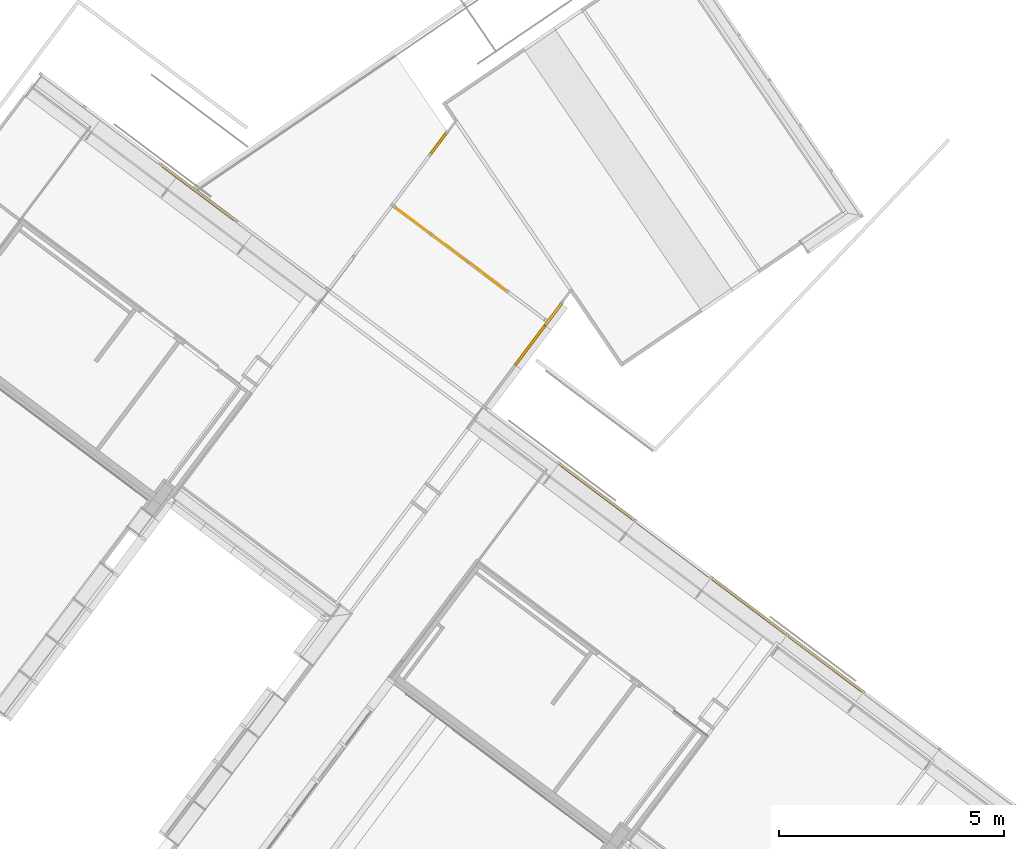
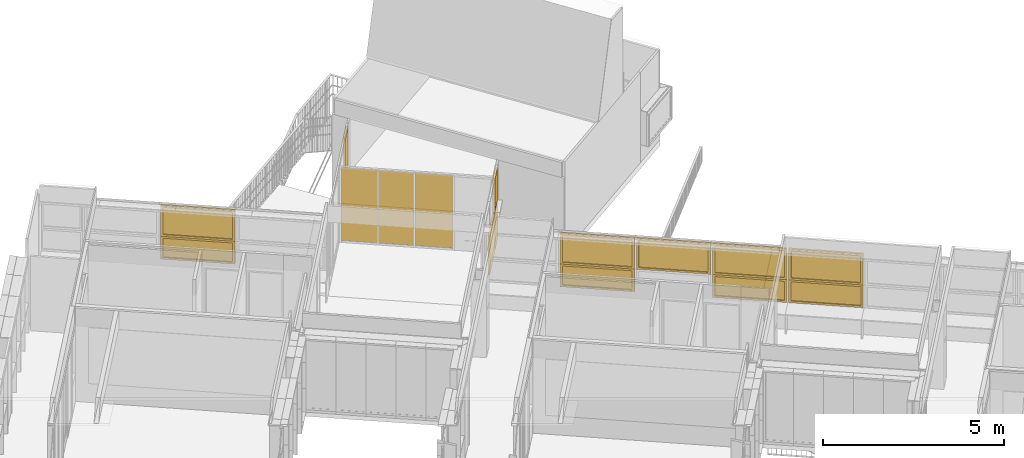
# One storey, part 206 of 243: 12 windows, 4 doors, 5 elements without a shape of their own.
"""IFC2X3 building model written with IfcOpenShell, lengths in metres."""

from ifc_helpers import new_model, entity, si_unit, converted_unit, derived_unit, direction, frame, origin, origin_2d_with_axis, place, context, subcontext, project, spatial, rectangle, extrude, faceted_brep, source, transform, mapped, material, material_list, type_object, type_shapes, element, aggregate, save


model = new_model("IFC2X3")

# Units and contexts
model_context = context("Model", 3, precision=1e-05, world=origin(), true_north=direction((6.123031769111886e-17, 1.0)))
body_context = subcontext(model_context, "Body", "Model", "MODEL_VIEW")
ifc_project = project(units=[si_unit("LENGTHUNIT", "METRE"), si_unit("AREAUNIT", "SQUARE_METRE"), si_unit("VOLUMEUNIT", "CUBIC_METRE"), converted_unit("PLANEANGLEUNIT", "DEGREE", entity("IfcRatioMeasure", 0.017453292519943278), si_unit("PLANEANGLEUNIT", "RADIAN"), dimensions=[0, 0, 0, 0, 0, 0, 0]), si_unit("MASSUNIT", "GRAM", prefix="KILO"), derived_unit("MASSDENSITYUNIT", [(si_unit("MASSUNIT", "GRAM", prefix="KILO"), 1), (si_unit("LENGTHUNIT", "METRE"), -3)]), derived_unit("IONCONCENTRATIONUNIT", [(si_unit("MASSUNIT", "GRAM", prefix="KILO"), 1), (si_unit("LENGTHUNIT", "METRE"), -3)]), derived_unit("MOMENTOFINERTIAUNIT", [(si_unit("LENGTHUNIT", "METRE"), 4)]), si_unit("TIMEUNIT", "SECOND"), si_unit("FREQUENCYUNIT", "HERTZ"), si_unit("THERMODYNAMICTEMPERATUREUNIT", "DEGREE_CELSIUS"), derived_unit("THERMALTRANSMITTANCEUNIT", [(si_unit("MASSUNIT", "GRAM", prefix="KILO"), 1), (si_unit("THERMODYNAMICTEMPERATUREUNIT", "KELVIN"), -1), (si_unit("TIMEUNIT", "SECOND"), -3)]), derived_unit("THERMALCONDUCTANCEUNIT", [(si_unit("MASSUNIT", "GRAM", prefix="KILO"), 1), (si_unit("THERMODYNAMICTEMPERATUREUNIT", "KELVIN"), -1), (si_unit("TIMEUNIT", "SECOND"), -3), (si_unit("LENGTHUNIT", "METRE"), 1)]), derived_unit("VOLUMETRICFLOWRATEUNIT", [(si_unit("LENGTHUNIT", "METRE"), 3), (si_unit("TIMEUNIT", "SECOND"), -1)]), derived_unit("MASSFLOWRATEUNIT", [(si_unit("MASSUNIT", "GRAM", prefix="KILO"), 1), (si_unit("TIMEUNIT", "SECOND"), -1)]), derived_unit("ROTATIONALFREQUENCYUNIT", [(si_unit("TIMEUNIT", "SECOND"), -1)]), si_unit("ELECTRICCURRENTUNIT", "AMPERE"), si_unit("ELECTRICVOLTAGEUNIT", "VOLT"), si_unit("POWERUNIT", "WATT"), si_unit("FORCEUNIT", "NEWTON", prefix="KILO"), si_unit("ILLUMINANCEUNIT", "LUX"), si_unit("LUMINOUSFLUXUNIT", "LUMEN"), si_unit("LUMINOUSINTENSITYUNIT", "CANDELA"), derived_unit("USERDEFINED", [(si_unit("MASSUNIT", "GRAM", prefix="KILO"), -1), (si_unit("LENGTHUNIT", "METRE"), -2), (si_unit("TIMEUNIT", "SECOND"), 3), (si_unit("LUMINOUSFLUXUNIT", "LUMEN"), 1)]), derived_unit("USERDEFINED", [(si_unit("MASSUNIT", "GRAM", prefix="KILO"), 1), (si_unit("TIMEUNIT", "SECOND"), -3), (si_unit("LENGTHUNIT", "METRE"), 3), (si_unit("ELECTRICCURRENTUNIT", "AMPERE"), -2)]), derived_unit("SOUNDPOWERUNIT", [(si_unit("MASSUNIT", "GRAM", prefix="KILO"), 1), (si_unit("TIMEUNIT", "SECOND"), -3), (si_unit("LENGTHUNIT", "METRE"), 2)]), derived_unit("SOUNDPRESSUREUNIT", [(si_unit("MASSUNIT", "GRAM", prefix="KILO"), 1), (si_unit("LENGTHUNIT", "METRE"), -1), (si_unit("TIMEUNIT", "SECOND"), -2)]), derived_unit("LINEARVELOCITYUNIT", [(si_unit("LENGTHUNIT", "METRE"), 1), (si_unit("TIMEUNIT", "SECOND"), -1)]), si_unit("PRESSUREUNIT", "PASCAL"), derived_unit("USERDEFINED", [(si_unit("MASSUNIT", "GRAM", prefix="KILO"), 1), (si_unit("LENGTHUNIT", "METRE"), -2), (si_unit("TIMEUNIT", "SECOND"), -2)]), derived_unit("LINEARFORCEUNIT", [(si_unit("MASSUNIT", "GRAM", prefix="KILO"), 1), (si_unit("TIMEUNIT", "SECOND"), -2)]), derived_unit("PLANARFORCEUNIT", [(si_unit("MASSUNIT", "GRAM", prefix="KILO"), 1), (si_unit("LENGTHUNIT", "METRE"), -1), (si_unit("TIMEUNIT", "SECOND"), -2)]), derived_unit("SPECIFICHEATCAPACITYUNIT", [(si_unit("THERMODYNAMICTEMPERATUREUNIT", "KELVIN"), -1), (si_unit("LENGTHUNIT", "METRE"), 2), (si_unit("TIMEUNIT", "SECOND"), -2)]), derived_unit("HEATINGVALUEUNIT", [(si_unit("LENGTHUNIT", "METRE"), 2), (si_unit("TIMEUNIT", "SECOND"), -2)]), derived_unit("VAPORPERMEABILITYUNIT", [(si_unit("LENGTHUNIT", "METRE"), -1), (si_unit("TIMEUNIT", "SECOND"), 1)]), derived_unit("DYNAMICVISCOSITYUNIT", [(si_unit("MASSUNIT", "GRAM", prefix="KILO"), 1), (si_unit("TIMEUNIT", "SECOND"), -1), (si_unit("LENGTHUNIT", "METRE"), -1)]), derived_unit("THERMALEXPANSIONCOEFFICIENTUNIT", [(si_unit("THERMODYNAMICTEMPERATUREUNIT", "KELVIN"), -1)]), derived_unit("MODULUSOFELASTICITYUNIT", [(si_unit("MASSUNIT", "GRAM", prefix="KILO"), 1), (si_unit("LENGTHUNIT", "METRE"), -1), (si_unit("TIMEUNIT", "SECOND"), -2)]), derived_unit("ISOTHERMALMOISTURECAPACITYUNIT", [(si_unit("LENGTHUNIT", "METRE"), 3), (si_unit("MASSUNIT", "GRAM", prefix="KILO"), -1)]), derived_unit("MOISTUREDIFFUSIVITYUNIT", [(si_unit("TIMEUNIT", "SECOND"), -1), (si_unit("LENGTHUNIT", "METRE"), 2)])], contexts=[model_context])

# Site, building, storey
site_placement = place(None, frame((0.0, 0.0, 235.0), z_axis=(0.0, 0.0, 1.0), x_axis=(-0.7996477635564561, 0.6004693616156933, 0.0)))
site = spatial("IfcSite", under=ifc_project, at=site_placement, Name="Default", CompositionType="ELEMENT")
building_placement = place(site_placement, origin())
building = spatial("IfcBuilding", under=site, at=building_placement, CompositionType="ELEMENT")
storey_placement = place(building_placement, origin())
storey = spatial("IfcBuildingStorey", under=building, at=storey_placement, Name="P0- Escola", CompositionType="ELEMENT", Elevation=0.0)

# Curtain wall, windows
curtain_wall_type_1 = type_object("IfcCurtainWallType", Name="Muro cortina:MC- EXT- MC6", PredefinedType="NOTDEFINED")
curtain_wall_1_placement = place(storey_placement, origin())
curtain_wall_1 = element("IfcCurtainWall", 1, at=curtain_wall_1_placement, inside=storey, type_object=curtain_wall_type_1, Name="Muro cortina:MC- EXT- MC6", ObjectType="Muro cortina:MC- EXT- MC6")
ifc_material_1 = material(Name="_Vidre")
ifc_material_2 = material(Name="_Alumini- T1- Perfil")
ifc_material_list_1 = material_list([ifc_material_1, ifc_material_2])
window_style_1 = type_object("IfcWindowStyle", Name="MC- Alu- Conjunt vidre fix- 62x60 cm:MC- Alu- Conjunt vidre fix- 62x60 cm", ConstructionType="NOTDEFINED", OperationType="NOTDEFINED", ParameterTakesPrecedence=False, Sizeable=False, material=ifc_material_list_1)
shared_shape_1 = source(origin(), body_context, "Body", "Brep", [
    faceted_brep([(0.984693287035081, -0.007600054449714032, 0.048806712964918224), (0.9846932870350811, -0.03160022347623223, 0.048806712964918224), (-0.9846932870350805, -0.03160022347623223, 0.048806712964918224), (-0.9846932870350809, -0.007600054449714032, 0.048806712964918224), (0.984693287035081, -0.007600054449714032, 0.7210000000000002), (-0.9846932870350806, -0.007600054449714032, 0.7210000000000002), (-0.9846932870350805, -0.03160022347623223, 0.7210000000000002), (0.9846932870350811, -0.03160022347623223, 0.7210000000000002)], [[[0, 1, 2, 3]], [[4, 0, 3, 5]], [[5, 3, 2, 6]], [[6, 2, 1, 7]], [[7, 1, 0, 4]], [[4, 5, 6, 7]]]),
    faceted_brep([(1.033499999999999, -0.05999999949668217, 0.7700000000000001), (1.033499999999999, -0.05999999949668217, 0.0), (1.033499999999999, 0.0, 0.0), (1.033499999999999, 0.0, 0.7699999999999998), (-1.033499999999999, 0.0, 0.7700000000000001), (-1.033499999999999, 0.0, 0.0), (0.9706931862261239, 0.0, 0.7071931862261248), (-0.9706931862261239, 0.0, 0.707193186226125), (-0.9706931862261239, 0.0, 0.0628068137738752), (0.9706931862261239, 0.0, 0.06280681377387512), (-1.033499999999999, -0.05999999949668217, 0.0), (-1.033499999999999, -0.05999999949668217, 0.7700000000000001), (-0.9706960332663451, -0.05999999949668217, 0.7071960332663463), (0.9706960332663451, -0.05999999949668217, 0.7071960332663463), (0.9706960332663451, -0.05999999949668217, 0.06280396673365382), (-0.9706960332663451, -0.05999999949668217, 0.06280396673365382), (0.9706960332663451, -0.03160022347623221, 0.7071960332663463), (0.9706960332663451, -0.03160022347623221, 0.06280396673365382), (-0.9706960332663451, -0.03160022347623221, 0.06280396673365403), (-0.9706960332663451, -0.03160022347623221, 0.7071960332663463), (-0.9846932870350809, -0.03160022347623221, 0.721193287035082), (0.9846932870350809, -0.03160022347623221, 0.721193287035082), (0.9846932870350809, -0.03160022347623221, 0.048806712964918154), (-0.9846932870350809, -0.03160022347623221, 0.04880671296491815), (0.9846932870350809, -0.007600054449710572, 0.721193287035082), (0.9846932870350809, -0.007600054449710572, 0.04880671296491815), (-0.9846932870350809, -0.007600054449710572, 0.048806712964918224), (-0.9846932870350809, -0.007600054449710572, 0.721193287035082), (-0.9706931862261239, -0.007600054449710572, 0.707193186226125), (0.9706931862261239, -0.007600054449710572, 0.707193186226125), (0.9706931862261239, -0.007600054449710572, 0.06280681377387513), (-0.9706931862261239, -0.007600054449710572, 0.06280681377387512)], [[[0, 1, 2, 3]], [[4, 3, 2, 5], [6, 7, 8, 9]], [[1, 10, 5, 2]], [[0, 11, 10, 1], [12, 13, 14, 15]], [[16, 17, 14, 13]], [[17, 18, 15, 14]], [[16, 19, 18, 17], [20, 21, 22, 23]], [[24, 25, 22, 21]], [[25, 26, 23, 22]], [[24, 27, 26, 25], [28, 29, 30, 31]], [[6, 9, 30, 29]], [[9, 8, 31, 30]], [[10, 11, 4, 5]], [[18, 19, 12, 15]], [[26, 27, 20, 23]], [[8, 7, 28, 31]], [[11, 0, 3, 4]], [[19, 16, 13, 12]], [[27, 24, 21, 20]], [[7, 6, 29, 28]]], outer=[[True], [True, False], [True], [True, False], [True], [True], [False, True], [True], [True], [True, False], [True], [True], [True], [True], [True], [True], [True], [True], [True], [True]]),
])
type_shapes(window_style_1, [shared_shape_1])
window_1_placement = place(curtain_wall_1_placement, frame((52.57664360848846, -42.34019175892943, 0.685), z_axis=(0.0, 0.0, 1.0), x_axis=(-1.0, 0.0, 0.0)))
window_1 = element("IfcWindow", 2, at=window_1_placement, type_object=window_style_1, material=ifc_material_list_1, Name="MC- Alu- Conjunt vidre fix- 62x60 cm:MC- Alu- Conjunt vidre fix- 62x60 cm", ObjectType="MC- Alu- Conjunt vidre fix- 62x60 cm:MC- Alu- Conjunt vidre fix- 62x60 cm", OverallHeight=0.7700000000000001, OverallWidth=2.066999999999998, context=body_context, shape_type="MappedRepresentation", body=[
    mapped(shared_shape_1, transform((0.0, 0.0, 0.0), scale=1.0)),
])
window_2_placement = place(curtain_wall_1_placement, frame((54.693643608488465, -42.340191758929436, 0.685), z_axis=(0.0, 0.0, 1.0), x_axis=(-1.0, 0.0, 0.0)))
window_2 = element("IfcWindow", 3, at=window_2_placement, type_object=window_style_1, material=ifc_material_list_1, Name="MC- Alu- Conjunt vidre fix- 62x60 cm:MC- Alu- Conjunt vidre fix- 62x60 cm", ObjectType="MC- Alu- Conjunt vidre fix- 62x60 cm:MC- Alu- Conjunt vidre fix- 62x60 cm", OverallHeight=0.7700000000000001, OverallWidth=2.066999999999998, context=body_context, shape_type="MappedRepresentation", body=[
    mapped(shared_shape_1, transform((0.0, 0.0, 0.0), scale=1.0)),
])
window_3_placement = place(curtain_wall_1_placement, frame((58.927643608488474, -42.34019175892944, 0.685), z_axis=(0.0, 0.0, 1.0), x_axis=(-1.0, 0.0, 0.0)))
window_3 = element("IfcWindow", 4, at=window_3_placement, type_object=window_style_1, material=ifc_material_list_1, Name="MC- Alu- Conjunt vidre fix- 62x60 cm:MC- Alu- Conjunt vidre fix- 62x60 cm", ObjectType="MC- Alu- Conjunt vidre fix- 62x60 cm:MC- Alu- Conjunt vidre fix- 62x60 cm", OverallHeight=0.7700000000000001, OverallWidth=2.066999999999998, context=body_context, shape_type="MappedRepresentation", body=[
    mapped(shared_shape_1, transform((0.0, 0.0, 0.0), scale=1.0)),
])

# Curtain wall, window
curtain_wall_2_placement = place(storey_placement, origin())
curtain_wall_2 = element("IfcCurtainWall", 5, at=curtain_wall_2_placement, inside=storey, type_object=curtain_wall_type_1, Name="Muro cortina:MC- EXT- MC6", ObjectType="Muro cortina:MC- EXT- MC6")
window_4_placement = place(curtain_wall_2_placement, frame((70.02305280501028, -42.34019175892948, 0.685), z_axis=(0.0, 0.0, 1.0), x_axis=(-1.0, 0.0, 0.0)))
window_4 = element("IfcWindow", 6, at=window_4_placement, type_object=window_style_1, material=ifc_material_list_1, Name="MC- Alu- Conjunt vidre fix- 62x60 cm:MC- Alu- Conjunt vidre fix- 62x60 cm", ObjectType="MC- Alu- Conjunt vidre fix- 62x60 cm:MC- Alu- Conjunt vidre fix- 62x60 cm", OverallHeight=0.7700000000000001, OverallWidth=2.066999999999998, context=body_context, shape_type="MappedRepresentation", body=[
    mapped(shared_shape_1, transform((0.0, 0.0, 0.0), scale=1.0)),
])

# Window
window_style_2 = type_object("IfcWindowStyle", Name="MC- Alu- Conjunt finestra basculant- 68x68 cm:MC- Alu- Conjunt finestra basculant- 68x68 cm", ConstructionType="NOTDEFINED", OperationType="NOTDEFINED", ParameterTakesPrecedence=False, Sizeable=False, material=ifc_material_list_1)
shared_shape_2 = source(origin(), body_context, "Body", "Brep", [
    faceted_brep([(0.9814117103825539, -0.035598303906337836, 0.051999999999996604), (-0.9814117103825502, -0.035598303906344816, 0.051999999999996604), (-0.9814117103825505, -0.011598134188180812, 0.051999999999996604), (0.9814117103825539, -0.011598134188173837, 0.051999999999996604), (0.9814117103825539, -0.035598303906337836, 0.9953027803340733), (0.9814117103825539, -0.011598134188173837, 0.9953027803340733), (-0.9814117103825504, -0.011598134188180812, 0.9953027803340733), (-0.9814117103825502, -0.035598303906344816, 0.9953027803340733)], [[[0, 1, 2, 3]], [[4, 0, 3, 5]], [[5, 3, 2, 6]], [[6, 2, 1, 7]], [[7, 1, 0, 4]], [[4, 5, 6, 7]]]),
    faceted_brep([(-0.9657108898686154, -0.009998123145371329, 0.9796019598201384), (-0.9657108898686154, -0.00999812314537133, 0.06789804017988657), (-0.9657108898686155, -0.007998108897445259, 0.06789804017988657), (-0.9657108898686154, -0.007998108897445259, 0.9796019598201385), (-0.994608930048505, -0.007998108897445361, 1.0085000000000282), (0.9946089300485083, -0.007998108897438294, 1.0085000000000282), (0.9946089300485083, -0.007998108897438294, 0.03899999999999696), (-0.994608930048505, -0.007998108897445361, 0.03899999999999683), (0.9657108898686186, -0.007998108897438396, 0.9796019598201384), (0.9657108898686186, -0.007998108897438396, 0.06789804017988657), (0.9657108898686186, -0.009998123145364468, 0.06789804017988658), (0.9657108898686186, -0.009998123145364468, 0.9796019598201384), (0.9814117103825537, -0.00999812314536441, 0.9953027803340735), (-0.9814117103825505, -0.009998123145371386, 0.9953027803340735), (-0.9814117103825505, -0.009998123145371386, 0.05219721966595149), (0.9814117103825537, -0.00999812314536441, 0.052197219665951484), (-0.9814117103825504, -0.040799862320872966, 0.9953027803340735), (-0.9814117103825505, -0.040799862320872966, 0.052197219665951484), (0.9814117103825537, -0.040799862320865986, 0.052197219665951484), (0.9814117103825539, -0.04079986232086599, 0.9953027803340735), (0.9657108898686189, -0.04079986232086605, 0.9796019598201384), (-0.9657108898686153, -0.04079986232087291, 0.9796019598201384), (-0.9657108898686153, -0.04079986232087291, 0.06789804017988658), (0.9657108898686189, -0.04079986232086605, 0.06789804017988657), (-0.9657108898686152, -0.06800005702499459, 0.9796019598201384), (-0.9657108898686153, -0.06800005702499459, 0.06789804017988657), (0.9657108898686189, -0.06800005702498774, 0.06789804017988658), (0.965710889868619, -0.06800005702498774, 0.9796019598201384), (1.0121128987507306, -0.06800005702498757, 1.0260039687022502), (-1.0121128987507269, -0.06800005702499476, 1.0260039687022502), (-1.0121128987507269, -0.06800005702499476, 0.021496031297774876), (1.0121128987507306, -0.06800005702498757, 0.02149603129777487), (-1.012112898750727, -0.06450003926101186, 1.0260039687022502), (-1.012112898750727, -0.06450003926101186, 0.02149603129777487), (1.0121128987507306, -0.06450003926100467, 0.021496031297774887), (1.0121128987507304, -0.06450003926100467, 1.0260039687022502), (0.9946089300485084, -0.06450003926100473, 1.0085000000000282), (-0.9946089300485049, -0.06450003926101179, 1.0085000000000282), (-0.9946089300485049, -0.06450003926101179, 0.03899999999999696), (0.9946089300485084, -0.06450003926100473, 0.038999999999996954)], [[[0, 1, 2, 3]], [[4, 5, 6, 7], [8, 3, 2, 9]], [[1, 10, 9, 2]], [[0, 11, 10, 1], [12, 13, 14, 15]], [[16, 17, 14, 13]], [[17, 18, 15, 14]], [[16, 19, 18, 17], [20, 21, 22, 23]], [[24, 25, 22, 21]], [[25, 26, 23, 22]], [[24, 27, 26, 25], [28, 29, 30, 31]], [[32, 33, 30, 29]], [[33, 34, 31, 30]], [[32, 35, 34, 33], [36, 37, 38, 39]], [[4, 7, 38, 37]], [[7, 6, 39, 38]], [[10, 11, 8, 9]], [[18, 19, 12, 15]], [[26, 27, 20, 23]], [[34, 35, 28, 31]], [[6, 5, 36, 39]], [[11, 0, 3, 8]], [[19, 16, 13, 12]], [[27, 24, 21, 20]], [[35, 32, 29, 28]], [[5, 4, 37, 36]]], outer=[[True], [True, False], [True], [False, True], [True], [True], [True, False], [True], [True], [False, True], [True], [True], [True, False], [True], [True], [True], [True], [True], [True], [True], [True], [True], [True], [True], [True]]),
    faceted_brep([(0.9706931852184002, 0.0, 0.9846931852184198), (0.9706931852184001, 0.0, 0.06280681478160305), (0.9706931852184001, -0.0040000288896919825, 0.06280681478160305), (0.9706931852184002, -0.0040000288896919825, 0.9846931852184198), (-0.9706931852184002, -0.0040000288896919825, 0.9846931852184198), (-0.9706931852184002, -0.0040000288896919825, 0.06280681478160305), (1.0060998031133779, -0.0040000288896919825, 1.0200998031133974), (-1.006099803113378, -0.0040000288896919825, 1.0200998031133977), (-1.0060998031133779, -0.0040000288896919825, 0.02740019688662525), (1.006099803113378, -0.0040000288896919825, 0.02740019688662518), (-0.9706931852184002, 0.0, 0.062806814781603), (-0.9706931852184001, 0.0, 0.9846931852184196), (-1.0335000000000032, 0.0, 1.0475000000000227), (1.0335000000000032, 0.0, 1.0475000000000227), (1.0335000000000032, 0.0, 0.0), (-1.0335000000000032, 0.0, 0.0), (1.0335000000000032, -0.05999999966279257, 1.0475000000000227), (1.033500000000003, -0.05999999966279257, 0.0), (-1.0335000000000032, -0.05999999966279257, 0.0), (-1.033500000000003, -0.05999999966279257, 1.0475000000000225), (-1.006099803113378, -0.05999999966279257, 1.0200998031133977), (1.006099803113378, -0.05999999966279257, 1.0200998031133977), (1.006099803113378, -0.05999999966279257, 0.027400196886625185), (-1.006099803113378, -0.05999999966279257, 0.02740019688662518)], [[[0, 1, 2, 3]], [[4, 3, 2, 5], [6, 7, 8, 9]], [[1, 10, 5, 2]], [[0, 11, 10, 1], [12, 13, 14, 15]], [[16, 17, 14, 13]], [[17, 18, 15, 14]], [[16, 19, 18, 17], [20, 21, 22, 23]], [[6, 9, 22, 21]], [[9, 8, 23, 22]], [[10, 11, 4, 5]], [[18, 19, 12, 15]], [[8, 7, 20, 23]], [[11, 0, 3, 4]], [[19, 16, 13, 12]], [[7, 6, 21, 20]]], outer=[[True], [False, True], [True], [False, True], [True], [True], [True, False], [True], [True], [True], [True], [True], [True], [True], [True]]),
])
type_shapes(window_style_2, [shared_shape_2])
window_5_placement = place(curtain_wall_1_placement, frame((52.57664360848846, -42.34019175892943, 1.455), z_axis=(0.0, 0.0, 1.0), x_axis=(-1.0, 0.0, 0.0)))
window_5 = element("IfcWindow", 7, at=window_5_placement, type_object=window_style_2, material=ifc_material_list_1, Name="MC- Alu- Conjunt finestra basculant- 68x68 cm:MC- Alu- Conjunt finestra basculant- 68x68 cm", ObjectType="MC- Alu- Conjunt finestra basculant- 68x68 cm:MC- Alu- Conjunt finestra basculant- 68x68 cm", OverallHeight=1.0475000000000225, OverallWidth=2.0670000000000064, context=body_context, shape_type="MappedRepresentation", body=[
    mapped(shared_shape_2, transform((0.0, 0.0, 0.0), scale=1.0)),
])

window_6_placement = place(curtain_wall_1_placement, frame((54.693643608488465, -42.340191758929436, 1.455), z_axis=(0.0, 0.0, 1.0), x_axis=(-1.0, 0.0, 0.0)))
window_6 = element("IfcWindow", 8, at=window_6_placement, type_object=window_style_2, material=ifc_material_list_1, Name="MC- Alu- Conjunt finestra basculant- 68x68 cm:MC- Alu- Conjunt finestra basculant- 68x68 cm", ObjectType="MC- Alu- Conjunt finestra basculant- 68x68 cm:MC- Alu- Conjunt finestra basculant- 68x68 cm", OverallHeight=1.0475000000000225, OverallWidth=2.0670000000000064, context=body_context, shape_type="MappedRepresentation", body=[
    mapped(shared_shape_2, transform((0.0, 0.0, 0.0), scale=1.0)),
])

window_7_placement = place(curtain_wall_1_placement, frame((56.81064360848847, -42.340191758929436, 1.455), z_axis=(0.0, 0.0, 1.0), x_axis=(-1.0, 0.0, 0.0)))
window_7 = element("IfcWindow", 9, at=window_7_placement, type_object=window_style_2, material=ifc_material_list_1, Name="MC- Alu- Conjunt finestra basculant- 68x68 cm:MC- Alu- Conjunt finestra basculant- 68x68 cm", ObjectType="MC- Alu- Conjunt finestra basculant- 68x68 cm:MC- Alu- Conjunt finestra basculant- 68x68 cm", OverallHeight=1.0475000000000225, OverallWidth=2.0670000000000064, context=body_context, shape_type="MappedRepresentation", body=[
    mapped(shared_shape_2, transform((0.0, 0.0, 0.0), scale=1.0)),
])

window_8_placement = place(curtain_wall_1_placement, frame((58.927643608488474, -42.34019175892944, 1.455), z_axis=(0.0, 0.0, 1.0), x_axis=(-1.0, 0.0, 0.0)))
window_8 = element("IfcWindow", 10, at=window_8_placement, type_object=window_style_2, material=ifc_material_list_1, Name="MC- Alu- Conjunt finestra basculant- 68x68 cm:MC- Alu- Conjunt finestra basculant- 68x68 cm", ObjectType="MC- Alu- Conjunt finestra basculant- 68x68 cm:MC- Alu- Conjunt finestra basculant- 68x68 cm", OverallHeight=1.0475000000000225, OverallWidth=2.0670000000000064, context=body_context, shape_type="MappedRepresentation", body=[
    mapped(shared_shape_2, transform((0.0, 0.0, 0.0), scale=1.0)),
])

aggregate(curtain_wall_1, [window_1, window_2, window_3, window_5, window_6, window_7, window_8])

window_9_placement = place(curtain_wall_2_placement, frame((70.02305280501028, -42.34019175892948, 1.455), z_axis=(0.0, 0.0, 1.0), x_axis=(-1.0, 0.0, 0.0)))
window_9 = element("IfcWindow", 11, at=window_9_placement, type_object=window_style_2, material=ifc_material_list_1, Name="MC- Alu- Conjunt finestra basculant- 68x68 cm:MC- Alu- Conjunt finestra basculant- 68x68 cm", ObjectType="MC- Alu- Conjunt finestra basculant- 68x68 cm:MC- Alu- Conjunt finestra basculant- 68x68 cm", OverallHeight=1.0475000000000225, OverallWidth=2.0670000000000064, context=body_context, shape_type="MappedRepresentation", body=[
    mapped(shared_shape_2, transform((0.0, 0.0, 0.0), scale=1.0)),
])

aggregate(curtain_wall_2, [window_4, window_9])

# Curtain wall, doors
curtain_wall_type_2 = type_object("IfcCurtainWallType", PredefinedType="NOTDEFINED")
curtain_wall_3_placement = place(storey_placement, origin())
curtain_wall_3 = element("IfcCurtainWall", 12, at=curtain_wall_3_placement, inside=storey, type_object=curtain_wall_type_2)
ifc_material_3 = material(Name="_Aillament")
ifc_material_list_2 = material_list([ifc_material_2, ifc_material_3])
door_style_1 = type_object("IfcDoorStyle", Name="MC- Alu- panell especific xapa:MC- Alu- panell especific xapa", ConstructionType="NOTDEFINED", OperationType="NOTDEFINED", ParameterTakesPrecedence=False, Sizeable=False, material=ifc_material_list_2)
shared_shape_3 = source(origin(), body_context, "Body", "SweptSolid", [
    extrude(rectangle(XDim=0.005999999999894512, YDim=1.1020000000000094, at=origin_2d_with_axis()), frame((0.0, -0.057000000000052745, 0.0), z_axis=(0.0, 0.0, 1.0), x_axis=(0.0, -1.0, 0.0)), (0.0, 0.0, 1.0), 1.2999999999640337),
    extrude(rectangle(XDim=1.1020000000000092, YDim=0.048000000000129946, at=origin_2d_with_axis()), frame((0.0, -0.030000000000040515, 0.0)), (0.0, 0.0, 1.0), 1.2999999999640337),
    extrude(rectangle(XDim=0.005999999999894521, YDim=1.1020000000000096, at=origin_2d_with_axis()), frame((0.0, -0.003000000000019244, 0.0), z_axis=(0.0, 0.0, 1.0), x_axis=(0.0, -1.0, 0.0)), (0.0, 0.0, 1.0), 1.2999999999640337),
])
type_shapes(door_style_1, [shared_shape_3])
door_1_placement = place(curtain_wall_3_placement, frame((62.050488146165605, -44.02218994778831, 0.085), z_axis=(0.0, 0.0, 1.0), x_axis=(0.0, 1.0, 0.0)))
door_1 = element("IfcDoor", 13, at=door_1_placement, type_object=door_style_1, material=ifc_material_list_2, Name="MC- Alu- panell especific xapa:MC- Alu- panell especific xapa", ObjectType="MC- Alu- panell especific xapa:MC- Alu- panell especific xapa", OverallHeight=1.2999999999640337, OverallWidth=1.1020000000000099, context=body_context, shape_type="MappedRepresentation", body=[
    mapped(shared_shape_3, transform((0.0, 0.0, 0.0), scale=1.0)),
])
door_style_2 = type_object("IfcDoorStyle", Name="MC- Alu- panell especific xapa:MC- Alu- panell especific xapa", ConstructionType="NOTDEFINED", OperationType="NOTDEFINED", ParameterTakesPrecedence=False, Sizeable=False, material=ifc_material_list_2)
shared_shape_4 = source(origin(), body_context, "Body", "SweptSolid", [
    extrude(rectangle(XDim=0.005999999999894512, YDim=0.607651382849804, at=origin_2d_with_axis()), frame((0.0, -0.057000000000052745, 0.0), z_axis=(0.0, 0.0, 1.0), x_axis=(0.0, -1.0, 0.0)), (0.0, 0.0, 1.0), 1.2999999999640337),
    extrude(rectangle(XDim=0.6076513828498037, YDim=0.048000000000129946, at=origin_2d_with_axis()), frame((0.0, -0.030000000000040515, 0.0)), (0.0, 0.0, 1.0), 1.2999999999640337),
    extrude(rectangle(XDim=0.005999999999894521, YDim=0.6076513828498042, at=origin_2d_with_axis()), frame((0.0, -0.003000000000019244, 0.0), z_axis=(0.0, 0.0, 1.0), x_axis=(0.0, -1.0, 0.0)), (0.0, 0.0, 1.0), 1.2999999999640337),
])
type_shapes(door_style_2, [shared_shape_4])
door_2_placement = place(curtain_wall_3_placement, frame((62.050488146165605, -44.87701563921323, 0.085), z_axis=(0.0, 0.0, 1.0), x_axis=(0.0, 1.0, 0.0)))
door_2 = element("IfcDoor", 14, at=door_2_placement, type_object=door_style_2, material=ifc_material_list_2, Name="MC- Alu- panell especific xapa:MC- Alu- panell especific xapa", ObjectType="MC- Alu- panell especific xapa:MC- Alu- panell especific xapa", OverallHeight=1.2999999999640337, OverallWidth=0.6076513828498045, context=body_context, shape_type="MappedRepresentation", body=[
    mapped(shared_shape_4, transform((0.0, 0.0, 0.0), scale=1.0)),
])
door_style_3 = type_object("IfcDoorStyle", Name="MC- Alu- panell especific xapa:MC- Alu- panell especific xapa", ConstructionType="NOTDEFINED", OperationType="NOTDEFINED", ParameterTakesPrecedence=False, Sizeable=False, material=ifc_material_list_2)
shared_shape_5 = source(origin(), body_context, "Body", "SweptSolid", [
    extrude(rectangle(XDim=0.005999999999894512, YDim=0.607651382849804, at=origin_2d_with_axis()), frame((0.0, -0.057000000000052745, 0.0), z_axis=(0.0, 0.0, 1.0), x_axis=(0.0, -1.0, 0.0)), (0.0, 0.0, 1.0), 1.0874999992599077),
    extrude(rectangle(XDim=0.6076513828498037, YDim=0.048000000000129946, at=origin_2d_with_axis()), frame((0.0, -0.030000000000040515, 0.0)), (0.0, 0.0, 1.0), 1.0874999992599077),
    extrude(rectangle(XDim=0.005999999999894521, YDim=0.6076513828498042, at=origin_2d_with_axis()), frame((0.0, -0.003000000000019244, 0.0), z_axis=(0.0, 0.0, 1.0), x_axis=(0.0, -1.0, 0.0)), (0.0, 0.0, 1.0), 1.0874999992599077),
])
type_shapes(door_style_3, [shared_shape_5])
door_3_placement = place(curtain_wall_3_placement, frame((62.050488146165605, -44.87701563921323, 1.4150000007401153), z_axis=(0.0, 0.0, 1.0), x_axis=(0.0, 1.0, 0.0)))
door_3 = element("IfcDoor", 15, at=door_3_placement, type_object=door_style_3, material=ifc_material_list_2, Name="MC- Alu- panell especific xapa:MC- Alu- panell especific xapa", ObjectType="MC- Alu- panell especific xapa:MC- Alu- panell especific xapa", OverallHeight=1.0874999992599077, OverallWidth=0.6076513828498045, context=body_context, shape_type="MappedRepresentation", body=[
    mapped(shared_shape_5, transform((0.0, 0.0, 0.0), scale=1.0)),
])
aggregate(curtain_wall_3, [door_1, door_2, door_3])

# Curtain wall, door
curtain_wall_4_placement = place(storey_placement, origin())
curtain_wall_4 = element("IfcCurtainWall", 16, at=curtain_wall_4_placement, inside=storey, type_object=curtain_wall_type_2)
door_style_4 = type_object("IfcDoorStyle", Name="MC- Alu- panell especific xapa:MC- Alu- panell especific xapa", ConstructionType="NOTDEFINED", OperationType="NOTDEFINED", ParameterTakesPrecedence=False, Sizeable=False, material=ifc_material_list_2)
shared_shape_6 = source(origin(), body_context, "Body", "SweptSolid", [
    extrude(rectangle(XDim=0.579945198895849, YDim=0.005999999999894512, at=origin_2d_with_axis()), frame((0.0, -0.057000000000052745, 0.0), z_axis=(0.0, 0.0, 1.0), x_axis=(-1.0, 0.0, 0.0)), (0.0, 0.0, 1.0), 2.417500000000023),
    extrude(rectangle(XDim=0.048000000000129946, YDim=0.5799451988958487, at=origin_2d_with_axis()), frame((0.0, -0.030000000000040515, 0.0), z_axis=(0.0, 0.0, 1.0), x_axis=(0.0, 1.0, 0.0)), (0.0, 0.0, 1.0), 2.417500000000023),
    extrude(rectangle(XDim=0.5799451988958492, YDim=0.005999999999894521, at=origin_2d_with_axis()), frame((0.0, -0.003000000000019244, 0.0), z_axis=(0.0, 0.0, 1.0), x_axis=(-1.0, 0.0, 0.0)), (0.0, 0.0, 1.0), 2.417500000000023),
])
type_shapes(door_style_4, [shared_shape_6])
door_4_placement = place(curtain_wall_4_placement, frame((66.43814360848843, -46.39416254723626, 0.085), z_axis=(0.0, 0.0, 1.0), x_axis=(0.0, -1.0, 0.0)))
door_4 = element("IfcDoor", 17, at=door_4_placement, type_object=door_style_4, material=ifc_material_list_2, Name="MC- Alu- panell especific xapa:MC- Alu- panell especific xapa", ObjectType="MC- Alu- panell especific xapa:MC- Alu- panell especific xapa", OverallHeight=2.417500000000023, OverallWidth=0.5799451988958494, context=body_context, shape_type="MappedRepresentation", body=[
    mapped(shared_shape_6, transform((0.0, 0.0, 0.0), scale=1.0)),
])
aggregate(curtain_wall_4, [door_4])

# Curtain wall, windows
curtain_wall_type_3 = type_object("IfcCurtainWallType", Name="Muro cortina:MC- INT- C1", PredefinedType="NOTDEFINED")
curtain_wall_5_placement = place(storey_placement, origin())
curtain_wall_5 = element("IfcCurtainWall", 18, at=curtain_wall_5_placement, inside=storey, type_object=curtain_wall_type_3, Name="Muro cortina:MC- INT- C1", ObjectType="Muro cortina:MC- INT- C1")
window_style_3 = type_object("IfcWindowStyle", Name="MC- Fusta- vidre fix:MC- Fusta- vidre fix", ConstructionType="NOTDEFINED", OperationType="NOTDEFINED", ParameterTakesPrecedence=False, Sizeable=False, material=ifc_material_1)
shared_shape_7 = source(origin(), body_context, "Body", "SweptSolid", [
    extrude(rectangle(XDim=1.0099999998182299, YDim=0.015999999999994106, at=origin_2d_with_axis()), frame((0.0, 0.0, 0.0), z_axis=(0.0, 0.0, 1.0), x_axis=(-1.0, 0.0, 0.0)), (0.0, 0.0, 1.0), 2.4472612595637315),
])
type_shapes(window_style_3, [shared_shape_7])
window_10_placement = place(curtain_wall_5_placement, frame((65.82814360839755, -44.676435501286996, 0.04499999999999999), z_axis=(0.0, 0.0, 1.0), x_axis=(-1.0, 0.0, 0.0)))
window_10 = element("IfcWindow", 19, at=window_10_placement, type_object=window_style_3, material=ifc_material_1, Name="MC- Fusta- vidre fix:MC- Fusta- vidre fix", ObjectType="MC- Fusta- vidre fix:MC- Fusta- vidre fix", OverallHeight=2.4472612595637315, OverallWidth=1.0099999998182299, context=body_context, shape_type="MappedRepresentation", body=[
    mapped(shared_shape_7, transform((0.0, 0.0, 0.0), scale=1.0)),
])
window_style_4 = type_object("IfcWindowStyle", Name="MC- Fusta- vidre fix:MC- Fusta- vidre fix", ConstructionType="NOTDEFINED", OperationType="NOTDEFINED", ParameterTakesPrecedence=False, Sizeable=False, material=ifc_material_1)
shared_shape_8 = source(origin(), body_context, "Body", "SweptSolid", [
    extrude(rectangle(XDim=0.9830000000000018, YDim=0.015999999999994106, at=origin_2d_with_axis()), frame((0.0, 0.0, 0.0), z_axis=(0.0, 0.0, 1.0), x_axis=(-1.0, 0.0, 0.0)), (0.0, 0.0, 1.0), 2.4472612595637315),
])
type_shapes(window_style_4, [shared_shape_8])
window_11_placement = place(curtain_wall_5_placement, frame((64.80164360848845, -44.676435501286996, 0.04499999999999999), z_axis=(0.0, 0.0, 1.0), x_axis=(-1.0, 0.0, 0.0)))
window_11 = element("IfcWindow", 20, at=window_11_placement, type_object=window_style_4, material=ifc_material_1, Name="MC- Fusta- vidre fix:MC- Fusta- vidre fix", ObjectType="MC- Fusta- vidre fix:MC- Fusta- vidre fix", OverallHeight=2.4472612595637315, OverallWidth=0.9830000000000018, context=body_context, shape_type="MappedRepresentation", body=[
    mapped(shared_shape_8, transform((0.0, 0.0, 0.0), scale=1.0)),
])
window_style_5 = type_object("IfcWindowStyle", Name="MC- Fusta- vidre fix:MC- Fusta- vidre fix", ConstructionType="NOTDEFINED", OperationType="NOTDEFINED", ParameterTakesPrecedence=False, Sizeable=False, material=ifc_material_1)
shared_shape_9 = source(origin(), body_context, "Body", "SweptSolid", [
    extrude(rectangle(XDim=1.0546554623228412, YDim=0.015999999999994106, at=origin_2d_with_axis()), frame((0.0, 0.0, 0.0), z_axis=(0.0, 0.0, 1.0), x_axis=(-1.0, 0.0, 0.0)), (0.0, 0.0, 1.0), 2.4472612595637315),
])
type_shapes(window_style_5, [shared_shape_9])
window_12_placement = place(curtain_wall_5_placement, frame((63.75281587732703, -44.67643550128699, 0.04499999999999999), z_axis=(0.0, 0.0, 1.0), x_axis=(-1.0, 0.0, 0.0)))
window_12 = element("IfcWindow", 21, at=window_12_placement, type_object=window_style_5, material=ifc_material_1, Name="MC- Fusta- vidre fix:MC- Fusta- vidre fix", ObjectType="MC- Fusta- vidre fix:MC- Fusta- vidre fix", OverallHeight=2.4472612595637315, OverallWidth=1.0546554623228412, context=body_context, shape_type="MappedRepresentation", body=[
    mapped(shared_shape_9, transform((0.0, 0.0, 0.0), scale=1.0)),
])
aggregate(curtain_wall_5, [window_10, window_11, window_12])

save(model, "model.ifc")
